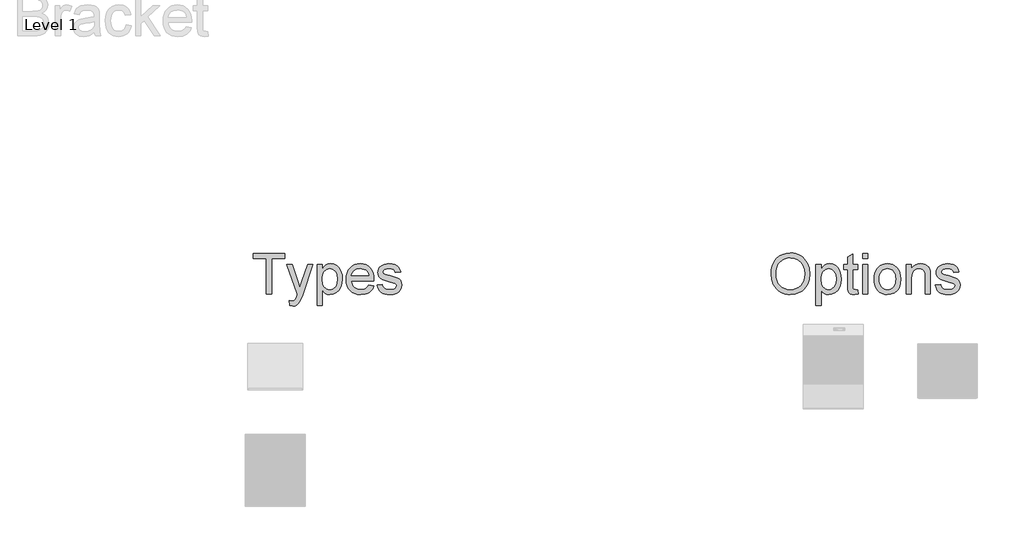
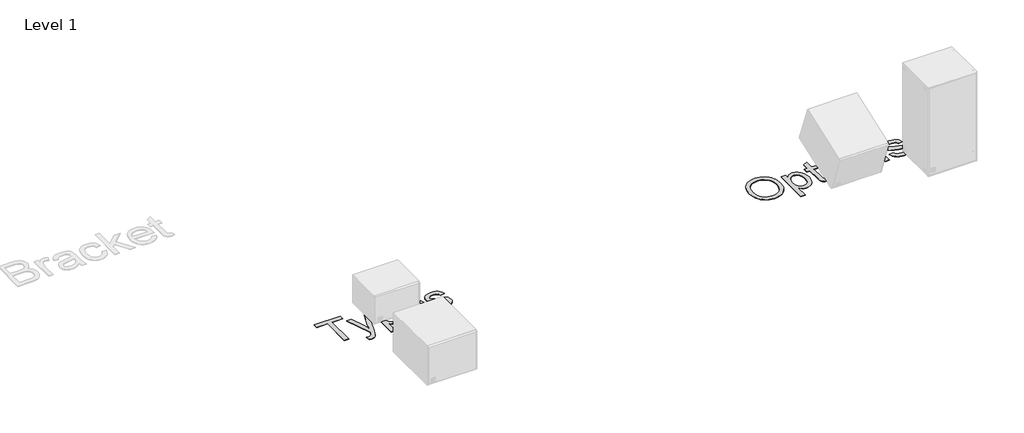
# One storey, part 36 of 55: 2 proxies.
"""IFC4 building model written with IfcOpenShell, lengths in millimetres."""

from ifc_helpers import new_model, si_unit, origin, origin_with_axes, place, context, project, spatial, polyline, outline, extrude, element, save

model = new_model("IFC4")

# Units and contexts
model_context = context("Model", 3, world=origin())
ifc_project = project(units=[si_unit("LENGTHUNIT", "METRE", prefix="MILLI")], contexts=[model_context])

# Site, building, storey
site = spatial("IfcSite", under=ifc_project)
building = spatial("IfcBuilding", under=site)
storey = spatial("IfcBuildingStorey", under=building, Name="Level 1", Elevation=0.0)

# Proxies
placement = place(None, origin())
element("IfcBuildingElementProxy", 1, Name="400mm Arial", ObjectType="400mm Arial", at=placement, inside=storey, context=model_context, shape_type="SweptSolid", body=[
    extrude(outline(polyline([(-11345.9583027, -13148.6945164), (-11345.9583027, -12805.9066376), (-11474.5037572, -12805.9066376), (-11474.5037572, -12756.9369407), (-11168.4431512, -12756.9369407), (-11168.4431512, -12805.9066376), (-11296.9886057, -12805.9066376), (-11296.9886057, -13148.6945164), (-11345.9583027, -13148.6945164)])), origin_with_axes(), (0.0, 0.0, 1.0), 5.0),
    extrude(outline(polyline([(-11119.4734542, -13258.8763346), (-11125.5946663, -13211.7238725), (-11100.7272421, -13216.0278498), (-11087.6479334, -13214.6768791), (-11077.4857648, -13210.6239672), (-11063.2348179, -13195.5600467), (-11049.8446663, -13159.5022816), (-11046.0189088, -13147.6424331), (-11150.0795148, -12860.9975467), (-11098.5274315, -12860.9975467), (-11043.2452345, -13020.8185695), (-11024.0208027, -13084.708721), (-11004.7963709, -13028.1831528), (-10948.0795148, -12860.9975467), (-10896.9100072, -12860.9975467), (-10997.0492118, -13155.5808801), (-11023.0643633, -13219.4710316), (-11036.3827819, -13239.8671017), (-11051.4706133, -13253.9984937), (-11068.9734542, -13262.2477835), (-11089.5369012, -13264.9975467), (-11119.4734542, -13258.8763346)])), origin_with_axes(), (0.0, 0.0, 1.0), 5.0),
    extrude(outline(polyline([(-10856.261333, -13258.8763346), (-10856.261333, -12860.9975467), (-10807.291636, -12860.9975467), (-10807.291636, -12909.0108043), (-10791.3190982, -12885.3269738), (-10773.4336815, -12868.409952), (-10752.5833027, -12858.259739), (-10727.7158785, -12854.8763346), (-10694.5991644, -12859.6107096), (-10665.6429618, -12873.8138346), (-10642.0667307, -12896.6249142), (-10625.0899315, -12927.1831528), (-10614.832119, -12963.2648289), (-10611.4128482, -13002.646221), (-10615.2744722, -13044.5263109), (-10626.8593444, -13081.9828687), (-10645.7968444, -13113.114971), (-10671.7163519, -13136.0216945), (-10701.9039703, -13150.11722), (-10733.6458027, -13154.8157285), (-10756.1579949, -13151.671434), (-10776.2551777, -13142.2385505), (-10793.4591313, -13127.999559), (-10807.291636, -13110.4369407), (-10807.291636, -13258.8763346), (-10856.261333, -13258.8763346)]), holes=[polyline([(-10807.291636, -13007.1414861), (-10801.9953529, -13051.0420543), (-10795.374999, -13068.0427645), (-10786.1065035, -13081.7437589), (-10762.6617828, -13099.8204634), (-10749.2447314, -13104.3396395), (-10734.697886, -13105.8460316), (-10719.9418195, -13104.2858398), (-10706.2796805, -13099.6052645), (-10682.2371853, -13080.8829634), (-10672.6757802, -13066.6858161), (-10665.8462052, -13049.0574426), (-10660.3825451, -13003.5070164), (-10665.7146947, -12959.8455581), (-10672.3798818, -12942.7133375), (-10681.7111436, -12928.7134558), (-10705.1199978, -12910.0628876), (-10718.3846166, -12905.4002456), (-10732.6893633, -12903.8460316), (-10746.9492769, -12905.4988784), (-10760.3663283, -12910.4574189), (-10784.6718444, -12930.2915808), (-10794.5680032, -12945.0117809), (-10801.6366881, -12962.7268318), (-10805.8778991, -12983.4367335), (-10807.291636, -13007.1414861)])]), origin_with_axes(), (0.0, 0.0, 1.0), 5.0),
    extrude(outline(polyline([(-10354.8958027, -13062.9975467), (-10306.8825451, -13069.1187589), (-10314.2441396, -13088.3491684), (-10324.1821427, -13105.2960789), (-10336.6965544, -13119.9594904), (-10351.7873747, -13132.3394028), (-10369.2991822, -13142.1727953), (-10389.0765555, -13149.1966471), (-10435.4279997, -13154.8157285), (-10465.8128837, -13152.3917525), (-10492.8860963, -13145.1198242), (-10516.6476375, -13132.9999437), (-10537.0975072, -13116.0321111), (-10553.5422871, -13094.6885683), (-10565.2885584, -13069.4415571), (-10572.3363212, -13040.2910777), (-10574.6855754, -13007.2371301), (-10572.3124102, -12973.062355), (-10565.1929144, -12942.9404918), (-10553.3270882, -12916.8715406), (-10536.7149315, -12894.8555013), (-10516.3188614, -12877.3646159), (-10493.1012951, -12864.8711263), (-10467.0622326, -12857.3750325), (-10438.2016739, -12854.8763346), (-10410.2706547, -12857.3690548), (-10385.0116881, -12864.8472153), (-10362.4247741, -12877.3108161), (-10342.5099125, -12894.7598573), (-10326.2534317, -12916.7280747), (-10314.6416597, -12942.7492039), (-10307.6745965, -12972.8232451), (-10305.3522421, -13006.9501982), (-10305.6391739, -13020.1490619), (-10525.7158785, -13020.1490619), (-10522.8794379, -13039.6903142), (-10517.2394343, -13056.8046017), (-10508.7958678, -13071.4919241), (-10497.5487383, -13083.7522816), (-10469.1305328, -13100.3225941), (-10434.4715603, -13105.8460316), (-10408.4085868, -13103.2875562), (-10386.4583027, -13095.6121301), (-10368.620708, -13082.3415335), (-10354.8958027, -13062.9975467)]), holes=[polyline([(-10525.7158785, -12971.1793649), (-10354.3219391, -12971.1793649), (-10360.9452819, -12945.3076793), (-10373.9289466, -12926.800577), (-10387.2832317, -12916.7579634), (-10402.4786625, -12909.5846679), (-10438.3929618, -12903.8460316), (-10471.4020764, -12908.4249852), (-10498.6964656, -12922.161846), (-10517.6698321, -12943.5741329), (-10525.7158785, -12971.1793649)])]), origin_with_axes(), (0.0, 0.0, 1.0), 5.0),
    extrude(outline(polyline([(-10274.7461815, -13062.9975467), (-10225.7764845, -13056.8763346), (-10218.0532364, -13077.8223573), (-10203.1088709, -13093.2210316), (-10180.847744, -13102.6897816), (-10151.1742118, -13105.8460316), (-10121.8593444, -13102.9528024), (-10101.2480754, -13094.2731149), (-10089.0534732, -13081.6959369), (-10084.9886057, -13067.1102361), (-10089.0773841, -13054.628702), (-10101.3437194, -13045.1121301), (-10151.7480754, -13031.1481149), (-10225.4895527, -13007.1893081), (-10244.1520764, -12995.1501272), (-10257.6737383, -12979.2134558), (-10265.8871616, -12960.3955107), (-10268.6249694, -12939.7125089), (-10266.4251588, -12920.7391424), (-10259.8257269, -12903.224346), (-10249.4244485, -12887.8615382), (-10235.8190982, -12875.3441376), (-10204.6869959, -12860.8540808), (-10162.5558406, -12854.8763346), (-10130.6824978, -12857.2793886), (-10102.9696663, -12864.4885505), (-10080.6846285, -12875.7984464), (-10065.0946663, -12890.503702), (-10054.7651209, -12909.6922674), (-10048.261333, -12934.4520922), (-10097.23103, -12940.5733043), (-10103.4120196, -12925.1626746), (-10115.6424883, -12913.5538914), (-10134.0419911, -12906.2729965), (-10158.730083, -12903.8460316), (-10186.8494012, -12906.1653971), (-10205.5956133, -12913.1234937), (-10216.1403576, -12923.1661073), (-10219.6552724, -12934.739024), (-10213.8209921, -12948.989971), (-10195.5529997, -12959.7977361), (-10153.3740224, -12970.2229255), (-10081.4976019, -12993.2731149), (-10062.51228, -13004.2960789), (-10048.1178671, -13019.3839104), (-10039.0436483, -13038.5844312), (-10036.0189088, -13061.9454634), (-10039.56969, -13086.0955581), (-10050.2220338, -13108.8109937), (-10067.5694533, -13128.3104018), (-10091.2054618, -13142.8124142), (-10119.7551777, -13151.8149), (-10151.8437194, -13154.8157285), (-10178.1996024, -13153.369114), (-10201.2199031, -13149.0292702), (-10220.9046214, -13141.7961973), (-10237.2537572, -13131.6698952), (-10250.6080423, -13118.6981859), (-10261.308208, -13102.9288914), (-10269.3542544, -13084.3620117), (-10274.7461815, -13062.9975467)])), origin_with_axes(), (0.0, 0.0, 1.0), 5.0),
])
element("IfcBuildingElementProxy", 2, Name="400mm Arial", ObjectType="400mm Arial", at=placement, inside=storey, context=model_context, shape_type="SweptSolid", body=[
    extrude(outline(polyline([(-6462.261333, -12957.9805013), (-6458.9974836, -12912.0295661), (-6449.2059353, -12871.3510032), (-6432.8866881, -12835.9448124), (-6410.0397421, -12805.8109937), (-6382.0340011, -12781.7505652), (-6350.238369, -12764.5645448), (-6314.6528458, -12754.2529326), (-6275.2774315, -12750.8157285), (-6248.9215484, -12752.42972), (-6223.892725, -12757.2716945), (-6200.1909613, -12765.3416518), (-6177.8162572, -12776.6395922), (-6157.3962762, -12790.8247839), (-6139.5586815, -12807.5564956), (-6124.3034732, -12826.8347271), (-6111.6306512, -12848.6594785), (-6101.671726, -12872.5345969), (-6094.558208, -12897.9639293), (-6088.8673936, -12953.4852361), (-6094.8570953, -13009.7477835), (-6102.3442224, -13035.5298029), (-6112.8262004, -13059.7456528), (-6126.0549528, -13081.7557143), (-6141.7824031, -13100.9203687), (-6160.0085513, -13117.2396159), (-6180.7333974, -13130.7134558), (-6226.4153339, -13148.7901604), (-6275.5643633, -13154.8157285), (-6302.3805328, -13153.1509262), (-6327.7381322, -13148.1565193), (-6351.6371616, -13139.8325077), (-6374.0776209, -13128.1788914), (-6394.473691, -13113.6469904), (-6412.2395527, -13096.6881244), (-6427.3752061, -13077.3022934), (-6439.8806512, -13055.4894975), (-6456.6661625, -13008.08597), (-6462.261333, -12957.9805013)]), holes=[polyline([(-6413.291636, -12958.458721), (-6410.843749, -12990.9238607), (-6403.5000877, -13019.7425751), (-6391.2606524, -13044.9148644), (-6374.1254429, -13066.4407285), (-6353.2959862, -13083.6805486), (-6329.9738093, -13095.9947058), (-6304.1589123, -13103.3832001), (-6275.8512951, -13105.8460316), (-6247.0594805, -13103.3592892), (-6220.9397184, -13095.8990619), (-6197.4920089, -13083.4653498), (-6176.7163519, -13066.0581528), (-6159.7066751, -13044.07798), (-6147.5569059, -13017.9253403), (-6140.2670444, -12987.6002338), (-6137.8370906, -12953.1026604), (-6141.9976019, -12909.7520448), (-6154.479136, -12872.2835316), (-6174.9588946, -12841.6416045), (-6203.1140792, -12818.7707475), (-6237.0796332, -12804.531756), (-6274.9904997, -12799.7854255), (-6302.3147776, -12802.0719134), (-6327.6663993, -12808.9313772), (-6351.0453647, -12820.3638169), (-6372.4516739, -12836.3692323), (-6390.3191573, -12857.7187529), (-6403.0816455, -12885.1835079), (-6410.7391384, -12918.7634973), (-6413.291636, -12958.458721)])]), origin_with_axes(), (0.0, 0.0, 1.0), 5.0),
    extrude(outline(polyline([(-6027.6552724, -13258.8763346), (-6027.6552724, -12860.9975467), (-5978.6855754, -12860.9975467), (-5978.6855754, -12909.0108043), (-5962.7130375, -12885.3269738), (-5944.8276209, -12868.409952), (-5923.9772421, -12858.259739), (-5899.1098179, -12854.8763346), (-5865.9931038, -12859.6107096), (-5837.0369012, -12873.8138346), (-5813.4606701, -12896.6249142), (-5796.4838709, -12927.1831528), (-5786.2260584, -12963.2648289), (-5782.8067875, -13002.646221), (-5786.6684116, -13044.5263109), (-5798.2532838, -13081.9828687), (-5817.1907838, -13113.114971), (-5843.1102913, -13136.0216945), (-5873.2979097, -13150.11722), (-5905.0397421, -13154.8157285), (-5927.5519343, -13151.671434), (-5947.6491171, -13142.2385505), (-5964.8530707, -13127.999559), (-5978.6855754, -13110.4369407), (-5978.6855754, -13258.8763346), (-6027.6552724, -13258.8763346)]), holes=[polyline([(-5978.6855754, -13007.1414861), (-5973.3892923, -13051.0420543), (-5966.7689384, -13068.0427645), (-5957.5004429, -13081.7437589), (-5934.0557222, -13099.8204634), (-5920.6386708, -13104.3396395), (-5906.0918254, -13105.8460316), (-5891.3357589, -13104.2858398), (-5877.6736199, -13099.6052645), (-5853.6311247, -13080.8829634), (-5844.0697196, -13066.6858161), (-5837.2401446, -13049.0574426), (-5831.7764845, -13003.5070164), (-5837.1086341, -12959.8455581), (-5843.7738212, -12942.7133375), (-5853.105083, -12928.7134558), (-5876.5139372, -12910.0628876), (-5889.778556, -12905.4002456), (-5904.0833027, -12903.8460316), (-5918.3432163, -12905.4988784), (-5931.7602677, -12910.4574189), (-5956.0657838, -12930.2915808), (-5965.9619426, -12945.0117809), (-5973.0306275, -12962.7268318), (-5977.2718384, -12983.4367335), (-5978.6855754, -13007.1414861)])]), origin_with_axes(), (0.0, 0.0, 1.0), 5.0),
    extrude(outline(polyline([(-5623.6552724, -13107.8545543), (-5617.5340603, -13150.1291755), (-5654.1656891, -13154.8157285), (-5677.6701872, -13152.7832948), (-5695.1969391, -13146.6859937), (-5707.5828292, -13137.2889767), (-5715.6647421, -13125.3573952), (-5720.1121853, -13104.8656812), (-5721.5946663, -13069.7882664), (-5721.5946663, -12909.9672437), (-5758.3219391, -12909.9672437), (-5758.3219391, -12860.9975467), (-5721.5946663, -12860.9975467), (-5721.5946663, -12791.081827), (-5672.6249694, -12762.2930013), (-5672.6249694, -12860.9975467), (-5623.6552724, -12860.9975467), (-5623.6552724, -12909.9672437), (-5672.6249694, -12909.9672437), (-5672.6249694, -13068.3536073), (-5670.042583, -13093.6036073), (-5661.6737383, -13102.5463157), (-5644.9838709, -13105.8460316), (-5623.6552724, -13107.8545543)])), origin_with_axes(), (0.0, 0.0, 1.0), 5.0),
    extrude(outline(polyline([(-5574.6855754, -12805.9066376), (-5574.6855754, -12756.9369407), (-5525.7158785, -12756.9369407), (-5525.7158785, -12805.9066376), (-5574.6855754, -12805.9066376)])), origin_with_axes(), (0.0, 0.0, 1.0), 5.0),
    extrude(outline(polyline([(-5574.6855754, -13148.6945164), (-5574.6855754, -12860.9975467), (-5525.7158785, -12860.9975467), (-5525.7158785, -13148.6945164), (-5574.6855754, -13148.6945164)])), origin_with_axes(), (0.0, 0.0, 1.0), 5.0),
    extrude(outline(polyline([(-5464.5037572, -13004.8460316), (-5461.8556157, -12967.5867394), (-5453.911191, -12935.4802645), (-5440.6704831, -12908.5266069), (-5422.1334921, -12886.7257664), (-5403.4709684, -12872.79164), (-5382.871655, -12862.8386926), (-5360.3355518, -12856.8669241), (-5335.8626588, -12854.8763346), (-5308.8462348, -12857.3003107), (-5284.4181749, -12864.572239), (-5262.5784791, -12876.6921194), (-5243.3271474, -12893.659952), (-5227.6146415, -12914.9018732), (-5216.391423, -12939.8440193), (-5209.6574919, -12968.4863902), (-5207.4128482, -13000.8289861), (-5211.3820716, -13050.3008138), (-5223.2897421, -13087.9606149), (-5242.7891502, -13116.1636215), (-5269.5335868, -13137.2650657), (-5301.2993302, -13150.4280628), (-5335.8626588, -13154.8157285), (-5363.273614, -13152.4007191), (-5387.9288283, -13145.1556907), (-5409.8283015, -13133.0806433), (-5428.9720338, -13116.175577), (-5444.5171628, -13094.7274236), (-5455.6208264, -13069.0231149), (-5462.2830245, -13039.0626509), (-5464.5037572, -13004.8460316)]), holes=[polyline([(-5415.5340603, -13004.7503876), (-5414.1173344, -13028.5029622), (-5409.8671569, -13049.0693981), (-5402.7835276, -13066.4496952), (-5392.8664466, -13080.6438535), (-5380.8033548, -13091.6698064), (-5367.2816929, -13099.5454871), (-5352.3014608, -13104.2708955), (-5335.8626588, -13105.8460316), (-5319.5075451, -13104.2619288), (-5304.5870906, -13099.5096206), (-5291.1012951, -13091.5891069), (-5279.0501588, -13080.5003876), (-5269.1330778, -13066.1657522), (-5262.0494485, -13048.5074899), (-5257.799271, -13027.5256007), (-5256.3825451, -13003.2200846), (-5257.8082376, -12980.2207061), (-5262.085315, -12960.1922674), (-5269.2137774, -12943.1347686), (-5279.1936247, -12929.0482096), (-5291.2895941, -12918.0222567), (-5304.766423, -12910.1465761), (-5319.6241112, -12905.4211677), (-5335.8626588, -12903.8460316), (-5352.3014608, -12905.41519), (-5367.2816929, -12910.1226651), (-5380.8033548, -12917.968457), (-5392.8664466, -12928.9525657), (-5402.7835276, -12943.1048798), (-5409.8671569, -12960.4552882), (-5414.1173344, -12981.0037908), (-5415.5340603, -13004.7503876)])]), origin_with_axes(), (0.0, 0.0, 1.0), 5.0),
    extrude(outline(polyline([(-5152.3219391, -13148.6945164), (-5152.3219391, -12860.9975467), (-5103.3522421, -12860.9975467), (-5103.3522421, -12901.1680013), (-5086.3395764, -12880.9153971), (-5065.9076398, -12866.4492513), (-5042.0564324, -12857.7695638), (-5014.7859542, -12854.8763346), (-4990.647815, -12857.2076556), (-4968.5421095, -12864.2016187), (-4950.1067402, -12874.9854729), (-4936.9796095, -12888.6864672), (-4928.0727677, -12905.2687352), (-4922.2982648, -12924.6964104), (-4919.7158785, -12972.0401604), (-4919.7158785, -13148.6945164), (-4968.6855754, -13148.6945164), (-4968.6855754, -12978.6395922), (-4970.0963235, -12953.3178592), (-4974.3285679, -12935.3128876), (-4982.1355044, -12922.4129113), (-4994.2703292, -12912.4061642), (-5009.8244249, -12905.9860647), (-5027.8891739, -12903.8460316), (-5056.5704002, -12908.6521395), (-5081.0193822, -12923.0704634), (-5090.7900084, -12934.8406457), (-5097.7690271, -12950.9267607), (-5101.9564384, -12971.3288086), (-5103.3522421, -12996.0467892), (-5103.3522421, -13148.6945164), (-5152.3219391, -13148.6945164)])), origin_with_axes(), (0.0, 0.0, 1.0), 5.0),
    extrude(outline(polyline([(-4870.7461815, -13062.9975467), (-4821.7764845, -13056.8763346), (-4814.0532364, -13077.8223573), (-4799.1088709, -13093.2210316), (-4776.847744, -13102.6897816), (-4747.1742118, -13105.8460316), (-4717.8593444, -13102.9528024), (-4697.2480754, -13094.2731149), (-4685.0534732, -13081.6959369), (-4680.9886057, -13067.1102361), (-4685.0773841, -13054.628702), (-4697.3437194, -13045.1121301), (-4747.7480754, -13031.1481149), (-4821.4895527, -13007.1893081), (-4840.1520764, -12995.1501272), (-4853.6737383, -12979.2134558), (-4861.8871616, -12960.3955107), (-4864.6249694, -12939.7125089), (-4862.4251588, -12920.7391424), (-4855.8257269, -12903.224346), (-4845.4244485, -12887.8615382), (-4831.8190982, -12875.3441376), (-4800.6869959, -12860.8540808), (-4758.5558406, -12854.8763346), (-4726.6824978, -12857.2793886), (-4698.9696663, -12864.4885505), (-4676.6846285, -12875.7984464), (-4661.0946663, -12890.503702), (-4650.7651209, -12909.6922674), (-4644.261333, -12934.4520922), (-4693.23103, -12940.5733043), (-4699.4120196, -12925.1626746), (-4711.6424883, -12913.5538914), (-4730.0419911, -12906.2729965), (-4754.730083, -12903.8460316), (-4782.8494012, -12906.1653971), (-4801.5956133, -12913.1234937), (-4812.1403576, -12923.1661073), (-4815.6552724, -12934.739024), (-4809.8209921, -12948.989971), (-4791.5529997, -12959.7977361), (-4749.3740224, -12970.2229255), (-4677.4976019, -12993.2731149), (-4658.51228, -13004.2960789), (-4644.1178671, -13019.3839104), (-4635.0436483, -13038.5844312), (-4632.0189088, -13061.9454634), (-4635.56969, -13086.0955581), (-4646.2220338, -13108.8109937), (-4663.5694533, -13128.3104018), (-4687.2054618, -13142.8124142), (-4715.7551777, -13151.8149), (-4747.8437194, -13154.8157285), (-4774.1996024, -13153.369114), (-4797.2199031, -13149.0292702), (-4816.9046214, -13141.7961973), (-4833.2537572, -13131.6698952), (-4846.6080423, -13118.6981859), (-4857.308208, -13102.9288914), (-4865.3542544, -13084.3620117), (-4870.7461815, -13062.9975467)])), origin_with_axes(), (0.0, 0.0, 1.0), 5.0),
])

save(model, "model.ifc")
